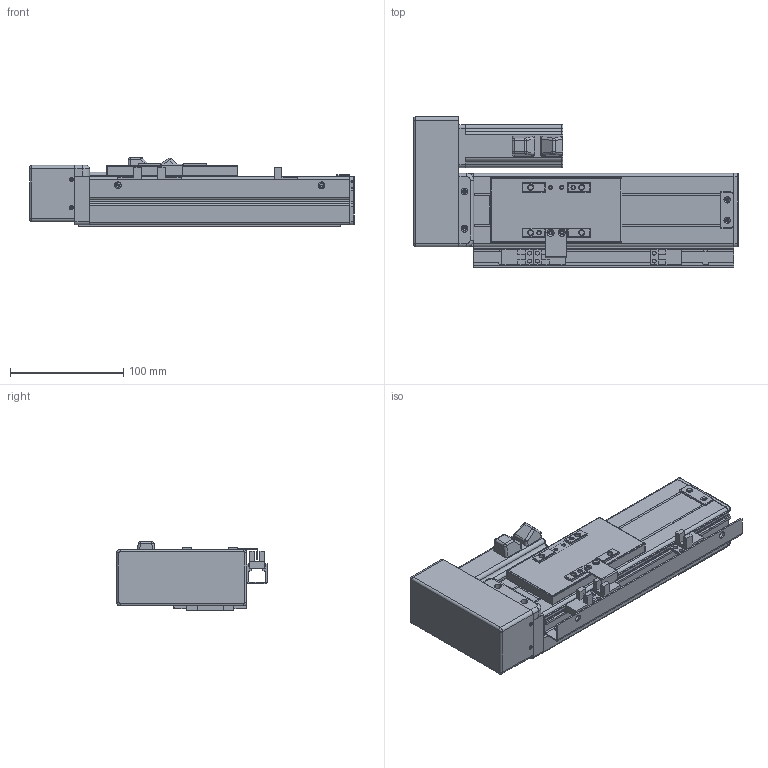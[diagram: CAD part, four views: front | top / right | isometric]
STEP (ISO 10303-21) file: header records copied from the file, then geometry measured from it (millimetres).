
FILE_DESCRIPTION (( 'STEP AP203' ), '1' );
FILE_NAME ('VT6-L10-C-S80-BR-P10-D4.STEP', '2015-10-26T06:14:35', ( '' ), ( '' ), 'SwSTEP 2.0', 'SolidWorks 2013', '' );
FILE_SCHEMA (( 'CONFIG_CONTROL_DESIGN' ));
Length unit declared in the file: millimetre
Products named in the file (17): EE-XS674; T6-BMLRヶ傷裔; 侂狟100W MSMD012G1U; T6-BRL萇儂假蚾啣; T6-BMRL肮祭湍謫欶; T6-BMRLヶ傷裔揤啣; ET6-BLRM佪裝_80; ET6-BLRM絳寢_俴最80; ET6-BLRM滅鳥湍_80; T6-綴傷裔; T6-覜茼え; VT6-L10-C-S80-BR-P10-D4; ET6-BC癹弇羲壽羞_80; T6-揤輸; T6-裔啣; ET6-BC耜啣_80; T6-賑雄殤
Assembly tree (19 placements, depth 2):
  VT6-L10-C-S80-BR-P10-D4
    ET6-BC耜啣_80  x2
    T6-賑雄殤
    T6-裔啣
    T6-揤輸
    T6-綴傷裔
    ET6-BLRM絳寢_俴最80
    ET6-BLRM滅鳥湍_80
    ET6-BLRM佪裝_80
    T6-BMLRヶ傷裔
    T6-BMRLヶ傷裔揤啣
    T6-BMRL肮祭湍謫欶
    侂狟100W MSMD012G1U
    T6-BRL萇儂假蚾啣
    T6-覜茼え
    ET6-BC癹弇羲壽羞_80
    EE-XS674  x3
Bounding box: 287 x 133 x 61 mm (x, y, z)
Volume: 506520.9 mm3; surface area: 280274.7 mm2
Topology: 19 solids, 19 shells, 865 faces, 2280 edges, 1440 vertices
Faces by surface type: cylinder 391, plane 374, cone 46, torus 36, sphere 18
Entity records: 26509 total; most frequent: CARTESIAN_POINT 4465, DIRECTION 4406, ORIENTED_EDGE 4078, EDGE_CURVE 2039, AXIS2_PLACEMENT_3D 1601, VERTEX_POINT 1300, VECTOR 1204, LINE 1204
